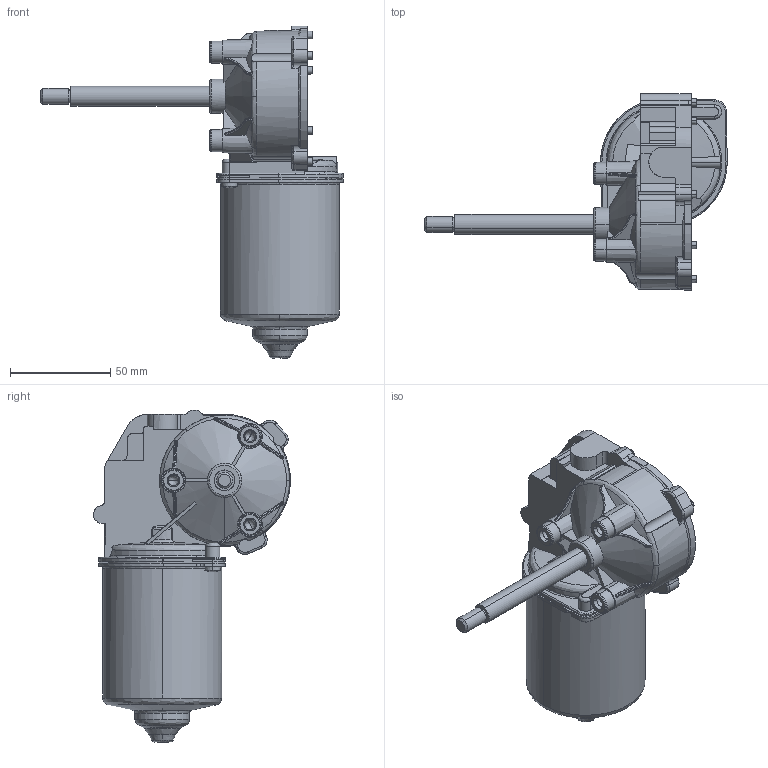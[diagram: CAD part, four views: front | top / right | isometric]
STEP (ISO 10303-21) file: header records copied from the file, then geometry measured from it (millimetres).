
FILE_DESCRIPTION (( 'STEP AP203' ), '1' );
FILE_NAME ('405002.step', '2016-06-16T12:27:41', ( '' ), ( '' ), 'SwSTEP 2.0', 'SolidWorks 2008', '' );
FILE_SCHEMA (( 'CONFIG_CONTROL_DESIGN' ));
Length unit declared in the file: millimetre
Products named in the file (3): Motor-DCK31-Right-KGK; Shaft-W120-KGK; 405002
Assembly tree (2 placements, depth 2):
  405002
    Shaft-W120-KGK
    Motor-DCK31-Right-KGK
Bounding box: 150.5 x 98.03 x 165.2 mm (x, y, z)
Volume: 228307.7 mm3; surface area: 69648.7 mm2
Topology: 2 solids, 4 shells, 605 faces, 1746 edges, 1163 vertices
Faces by surface type: plane 175, cylinder 172, bspline 167, cone 91
Entity records: 33485 total; most frequent: CARTESIAN_POINT 19405, ORIENTED_EDGE 3466, DIRECTION 2051, EDGE_CURVE 1733, VERTEX_POINT 1163, B_SPLINE_CURVE_WITH_KNOTS 871, AXIS2_PLACEMENT_3D 787, EDGE_LOOP 644
